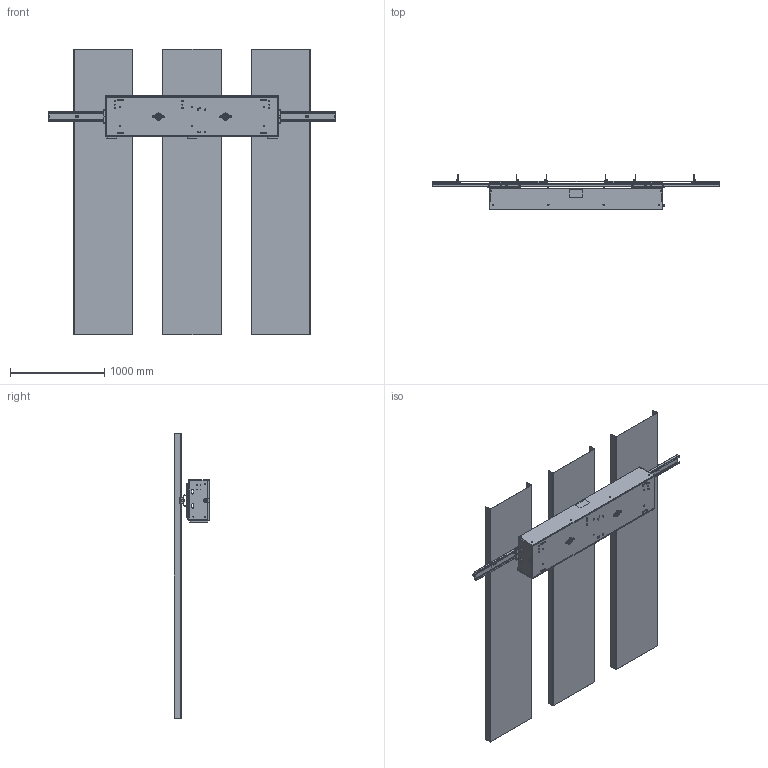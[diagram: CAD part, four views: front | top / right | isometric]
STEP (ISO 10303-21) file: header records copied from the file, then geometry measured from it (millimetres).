
FILE_DESCRIPTION (( 'STEP AP203' ), '1' );
FILE_NAME ('EGD-250 Arisa.STEP', '2018-09-18T12:03:14', ( 'paxadmin' ), ( 'Microsoft' ), 'SwSTEP 2.0', 'SolidWorks 2016', '' );
FILE_SCHEMA (( 'CONFIG_CONTROL_DESIGN' ));
Length unit declared in the file: inch
Products named in the file (1): EGD-250 Arisa
Bounding box: 3048 x 379.67 x 3022.6 mm (x, y, z)
Surface area: 19788921.2 mm2 (no closed solid volume)
Topology: 0 solids, 242 shells, 767 faces, 3412 edges, 2817 vertices
Faces by surface type: plane 369, cylinder 267, cone 69, torus 36, sphere 24, bspline 2
Entity records: 39930 total; most frequent: CARTESIAN_POINT 11187, DIRECTION 6534, ORIENTED_EDGE 4291, EDGE_CURVE 3406, VERTEX_POINT 2817, AXIS2_PLACEMENT_3D 2517, CIRCLE 1751, LINE 1500
